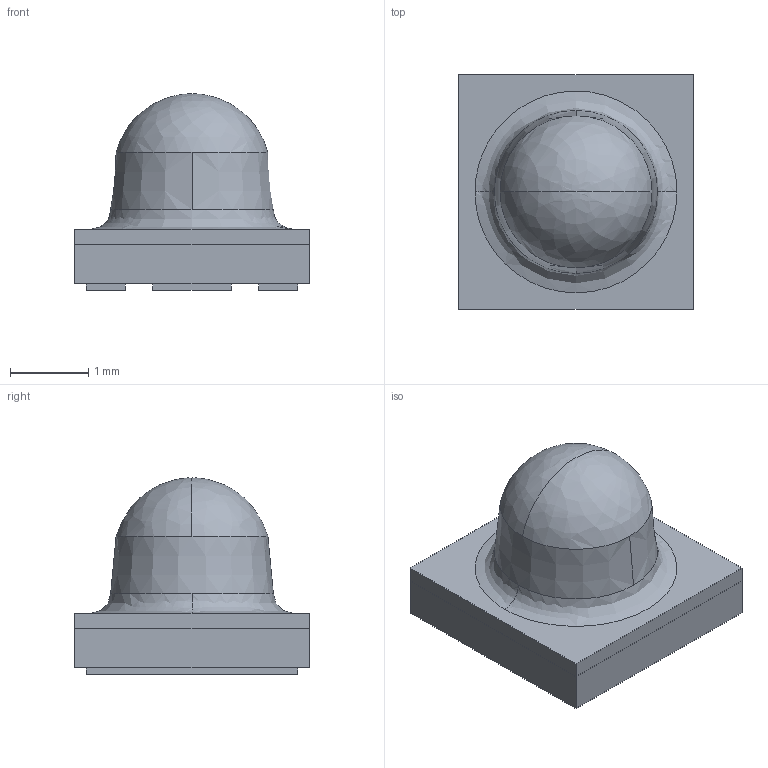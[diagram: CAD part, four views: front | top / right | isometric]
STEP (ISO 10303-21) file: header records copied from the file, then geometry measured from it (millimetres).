
FILE_DESCRIPTION (( 'STEP AP203' ), '1' );
FILE_NAME ('EOH-ESFNCEA-KL_A00.STEP', '2017-06-29T11:26:26', ( 'Sky123.Org' ), ( 'Sky123.Org' ), 'SwSTEP 2.0', 'SolidWorks 2012', '' );
FILE_SCHEMA (( 'CONFIG_CONTROL_DESIGN' ));
Length unit declared in the file: millimetre
Products named in the file (1): EOH-ESFNCEA-KL_A00
Bounding box: 3 x 3 x 2.51 mm (x, y, z)
Surface area: 55.3 mm2 (no closed solid volume)
Topology: 0 solids, 2 shells, 34 faces, 81 edges, 53 vertices
Faces by surface type: plane 28, bspline 4, cone 2
Entity records: 1137 total; most frequent: CARTESIAN_POINT 296, ORIENTED_EDGE 158, DIRECTION 147, EDGE_CURVE 79, LINE 65, VECTOR 65, VERTEX_POINT 53, AXIS2_PLACEMENT_3D 41
